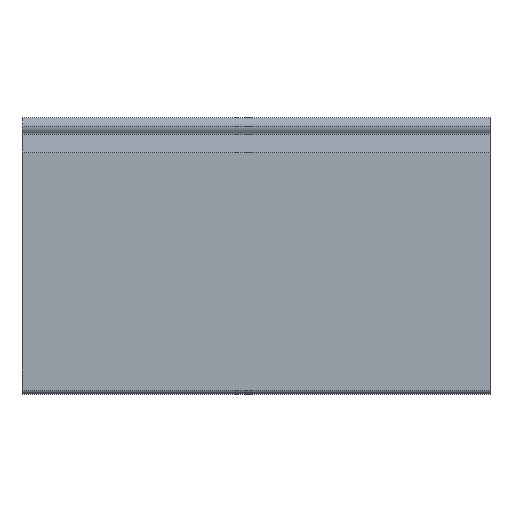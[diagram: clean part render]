
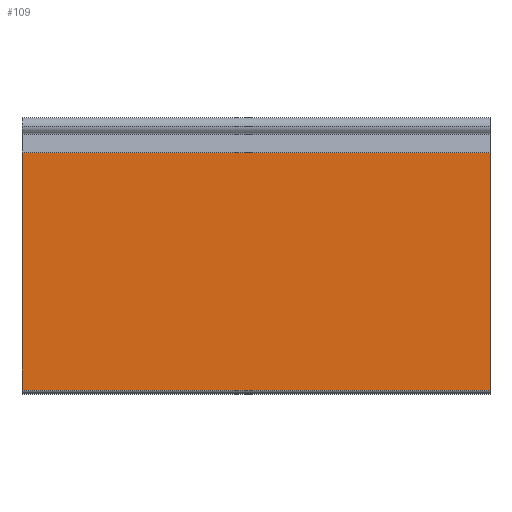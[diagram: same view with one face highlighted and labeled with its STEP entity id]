
A CAD part, top view. The second image highlights one B-rep face of the part: STEP entity #109.
In plain terms, the highlighted planar face has unit normal (0, 0, 1).
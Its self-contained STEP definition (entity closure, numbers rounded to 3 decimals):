
#109 = ADVANCED_FACE ( 'NONE', ( #339 ), #372, .F. ) ;
#165 = CARTESIAN_POINT ( 'NONE',  ( -108., -12.164, 4.05 ) ) ;
#167 = DIRECTION ( 'NONE',  ( 0., -1., 0. ) ) ;
#185 = LINE ( 'NONE', #165, #191 ) ;
#191 = VECTOR ( 'NONE', #167, 1000. ) ;
#212 = LINE ( 'NONE', #1268, #213 ) ;
#213 = VECTOR ( 'NONE', #1269, 1000. ) ;
#240 = CARTESIAN_POINT ( 'NONE',  ( 108., -12.164, 4.05 ) ) ;
#252 = DIRECTION ( 'NONE',  ( 0., -1., 0. ) ) ;
#339 = FACE_OUTER_BOUND ( 'NONE', #465, .T. ) ;
#371 = CARTESIAN_POINT ( 'NONE',  ( 108., -12.164, 4.05 ) ) ;
#372 = PLANE ( 'NONE',  #948 ) ;
#374 = DIRECTION ( 'NONE',  ( 0., 0., -1. ) ) ;
#375 = DIRECTION ( 'NONE',  ( 0., 1., 0. ) ) ;
#388 = EDGE_CURVE ( 'NONE', #663, #650, #185, .T. ) ;
#399 = EDGE_CURVE ( 'NONE', #620, #663, #212, .T. ) ;
#423 = EDGE_CURVE ( 'NONE', #620, #632, #915, .T. ) ;
#465 = EDGE_LOOP ( 'NONE', ( #556, #557, #558, #559 ) ) ;
#556 = ORIENTED_EDGE ( 'NONE', *, *, #388, .T. ) ;
#557 = ORIENTED_EDGE ( 'NONE', *, *, #1049, .F. ) ;
#558 = ORIENTED_EDGE ( 'NONE', *, *, #423, .F. ) ;
#559 = ORIENTED_EDGE ( 'NONE', *, *, #399, .T. ) ;
#620 = VERTEX_POINT ( 'NONE', #1081 ) ;
#632 = VERTEX_POINT ( 'NONE', #1091 ) ;
#650 = VERTEX_POINT ( 'NONE', #1109 ) ;
#663 = VERTEX_POINT ( 'NONE', #1122 ) ;
#760 = LINE ( 'NONE', #1150, #773 ) ;
#773 = VECTOR ( 'NONE', #1151, 1000. ) ;
#915 = LINE ( 'NONE', #240, #919 ) ;
#919 = VECTOR ( 'NONE', #252, 1000. ) ;
#948 = AXIS2_PLACEMENT_3D ( 'NONE', #371, #374, #375 ) ;
#1049 = EDGE_CURVE ( 'NONE', #632, #650, #760, .T. ) ;
#1081 = CARTESIAN_POINT ( 'NONE',  ( 108., -12.164, 4.05 ) ) ;
#1091 = CARTESIAN_POINT ( 'NONE',  ( 108., -121.663, 4.05 ) ) ;
#1109 = CARTESIAN_POINT ( 'NONE',  ( -108., -121.663, 4.05 ) ) ;
#1122 = CARTESIAN_POINT ( 'NONE',  ( -108., -12.164, 4.05 ) ) ;
#1150 = CARTESIAN_POINT ( 'NONE',  ( 108., -121.663, 4.05 ) ) ;
#1151 = DIRECTION ( 'NONE',  ( -1., 0., 0. ) ) ;
#1268 = CARTESIAN_POINT ( 'NONE',  ( 108., -12.164, 4.05 ) ) ;
#1269 = DIRECTION ( 'NONE',  ( -1., 0., 0. ) ) ;
